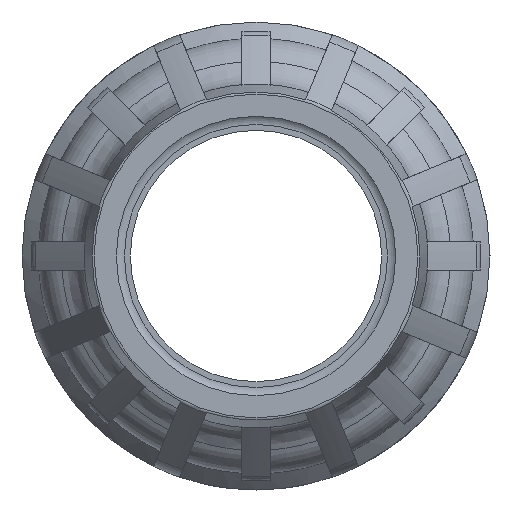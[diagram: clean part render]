
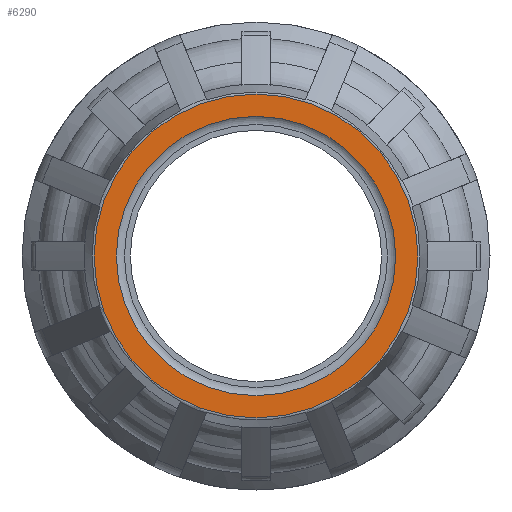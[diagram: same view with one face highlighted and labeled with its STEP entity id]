
A CAD part, left-side view. The second image highlights one B-rep face of the part: STEP entity #6290.
In plain terms, the highlighted planar face has unit normal (-1, 0, 0).
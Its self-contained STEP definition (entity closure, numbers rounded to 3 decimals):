
#90=PLANE('',#6960);
#2792=ORIENTED_EDGE('',*,*,#3977,.F.);
#2793=ORIENTED_EDGE('',*,*,#3994,.F.);
#3977=EDGE_CURVE('',#4711,#4711,#5048,.T.);
#3994=EDGE_CURVE('',#4712,#4712,#5065,.F.);
#4711=VERTEX_POINT('',#12070);
#4712=VERTEX_POINT('',#12105);
#5048=CIRCLE('',#6927,44.625);
#5065=CIRCLE('',#6961,38.5);
#5419=EDGE_LOOP('',(#2792));
#5420=EDGE_LOOP('',(#2793));
#5827=FACE_BOUND('',#5419,.T.);
#5828=FACE_BOUND('',#5420,.T.);
#6290=ADVANCED_FACE('',(#5827,#5828),#90,.F.);
#6927=AXIS2_PLACEMENT_3D('',#12069,#8311,#8312);
#6960=AXIS2_PLACEMENT_3D('',#12103,#8377,#8378);
#6961=AXIS2_PLACEMENT_3D('',#12104,#8379,#8380);
#8311=DIRECTION('',(1.,0.,0.));
#8312=DIRECTION('',(0.,0.,-1.));
#8377=DIRECTION('',(1.,0.,0.));
#8378=DIRECTION('',(0.,0.,-1.));
#8379=DIRECTION('',(1.,0.,0.));
#8380=DIRECTION('',(0.,0.,-1.));
#12069=CARTESIAN_POINT('',(0.,0.,0.));
#12070=CARTESIAN_POINT('',(0.,0.,-44.625));
#12103=CARTESIAN_POINT('',(0.,0.,0.));
#12104=CARTESIAN_POINT('',(0.,0.,0.));
#12105=CARTESIAN_POINT('',(0.,0.,-38.5));
